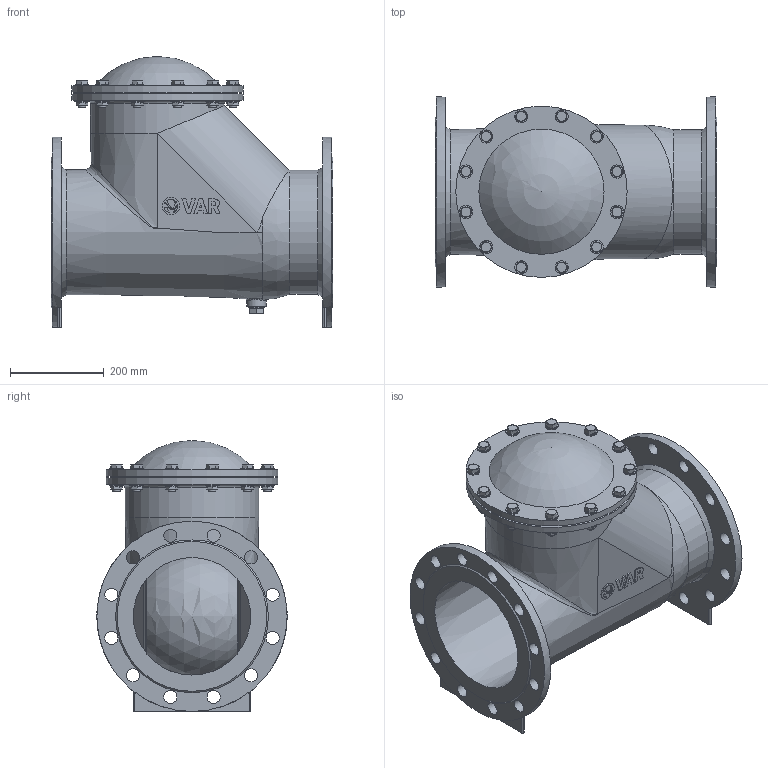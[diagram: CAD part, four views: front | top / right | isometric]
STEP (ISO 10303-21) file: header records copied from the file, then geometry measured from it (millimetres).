
FILE_DESCRIPTION(('STEP AP203'), '1');
FILE_NAME('Øàðîâîé îáðàòíûé êëàïàí VAG KRV', '', ('UNSPECIFIED'), ('UNSPECIFIED'), 'C3D Converter', 'C3D Toolkit', '');
FILE_SCHEMA(('CONFIG_CONTROL_DESIGN'));
Length unit declared in the file: millimetre
Assembly tree (54 placements, depth 2):
  (unnamed)
    (unnamed)
    (unnamed)
    (unnamed)
    (unnamed)
    (unnamed)
    (unnamed)  x12
    (unnamed)  x12
    (unnamed)  x12
    (unnamed)  x12
    (unnamed)
Bounding box: 600 x 405 x 576.5 mm (x, y, z)
Volume: 20610000.4 mm3; surface area: 2592962.2 mm2
Topology: 55 solids, 56 shells, 846 faces, 2108 edges, 1432 vertices
Faces by surface type: plane 420, extrusion 152, cylinder 149, cone 87, torus 16, bspline 13, sphere 9
Full cylindrical faces by diameter (mm): 14.376 x12, 16 x12, 17 x24, 18 x24, 20 x2, 21 x1, 28 x36, 28.19 x1, 30 x12, 34 x1, 37.005 x1, 41 x1, 250 x1, 264 x1, 271 x1, 285 x1, 364.5 x2, 405 x2
Entity records: 24031 total; most frequent: CARTESIAN_POINT 9354, ORIENTED_EDGE 2254, DIRECTION 1820, EDGE_CURVE 1127, VERTEX_POINT 798, EDGE_LOOP 697, VECTOR 678, AXIS2_PLACEMENT_3D 571
